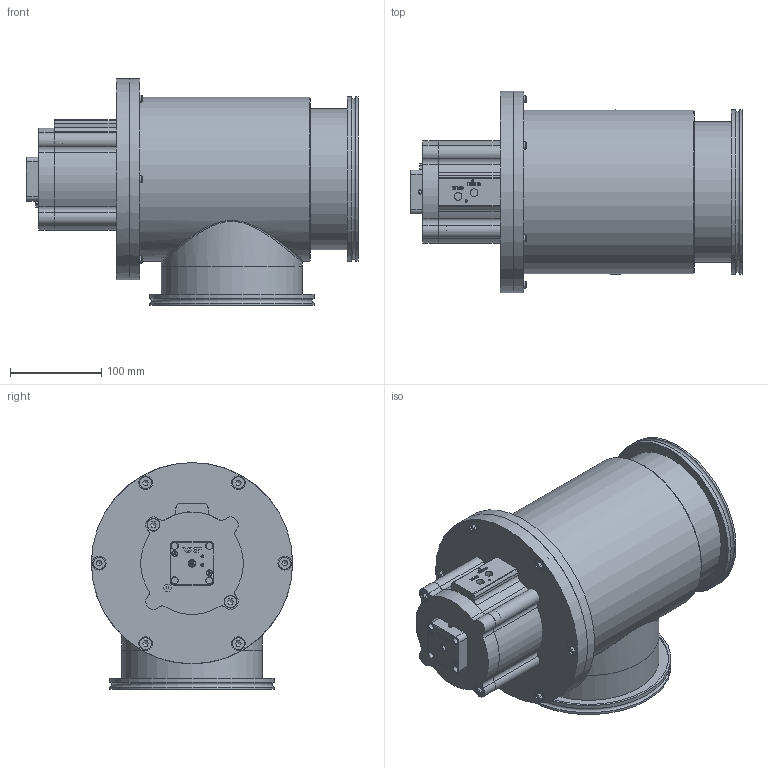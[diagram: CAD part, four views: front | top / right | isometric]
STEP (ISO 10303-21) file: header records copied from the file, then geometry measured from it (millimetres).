
FILE_DESCRIPTION(/* description */ (''),/* implementation_level */ '2;1');
FILE_NAME(/* name */ '1156940160_203.stp',/* time_stamp */ '2016-03-04T11:03:39+01:00',/* author */ (''),/* organization */ (''),/* preprocessor_version */ 'ST-DEVELOPER v15',/* originating_system */ 'SIEMENS PLM Software NX 9.0',/* authorisation */ '');
FILE_SCHEMA (('AP203_CONFIGURATION_CONTROLLED_3D_DESIGN_OF_MECHANICAL_PARTS_AND_ASSEMBLIES_MIM_LF { 1 0 10303 403 2 1 2}'));
Length unit declared in the file: millimetre
Products named in the file (21): 521703; 521699; 521708; 521706; 521707; 521705; 233359; 236204_1.1; n-6121-026.2; 517625_22971ID; 711043; 544355; n-7636-200.2; 542372; 228777; 476060; 239983.3; 521696_MODEL; 522333_MODEL; 544362_MODEL; 705414
Assembly tree (29 placements, depth 4):
  705414
    476060
    228777  x6
    542372
    544362_MODEL
      517625_22971ID
      n-6121-026.2  x2
    n-7636-200.2
    522333_MODEL
      521696_MODEL
        521705  x2
        521707
        521706
        521708
        521699
        521703
    544355
    239983.3
      236204_1.1  x2
      233359
    711043  x2
Bounding box: 363 x 220 x 248 mm (x, y, z)
Volume: 1515192.8 mm3; surface area: 644399.1 mm2
Topology: 41 solids, 41 shells, 830 faces, 2027 edges, 1334 vertices
Faces by surface type: plane 451, cylinder 247, cone 71, torus 21, extrusion 19, bspline 19, sphere 2
Full cylindrical faces by diameter (mm): 2.5 x5, 3 x7, 3.85 x2, 4.2 x2, 5 x1, 5.6 x2, 6.2 x2, 6.66 x8, 6.7 x8, 6.8 x10, 7.4 x1, 8 x17, 8.15 x2, 8.3 x6, 8.4 x1, 8.566 x2, 9 x6, 13 x8, 14 x2, 15 x8, 21 x1, 23.011 x2, 23.3 x1, 29.4 x1, 30 x1, 39.5 x1, 40 x1, 44.4 x1, 50 x1, 100.11 x1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
Entity records: 24431 total; most frequent: CARTESIAN_POINT 5929, DIRECTION 3248, ORIENTED_EDGE 3020, EDGE_CURVE 1510, AXIS2_PLACEMENT_3D 1247, VERTEX_POINT 1092, EDGE_LOOP 999, VECTOR 754
